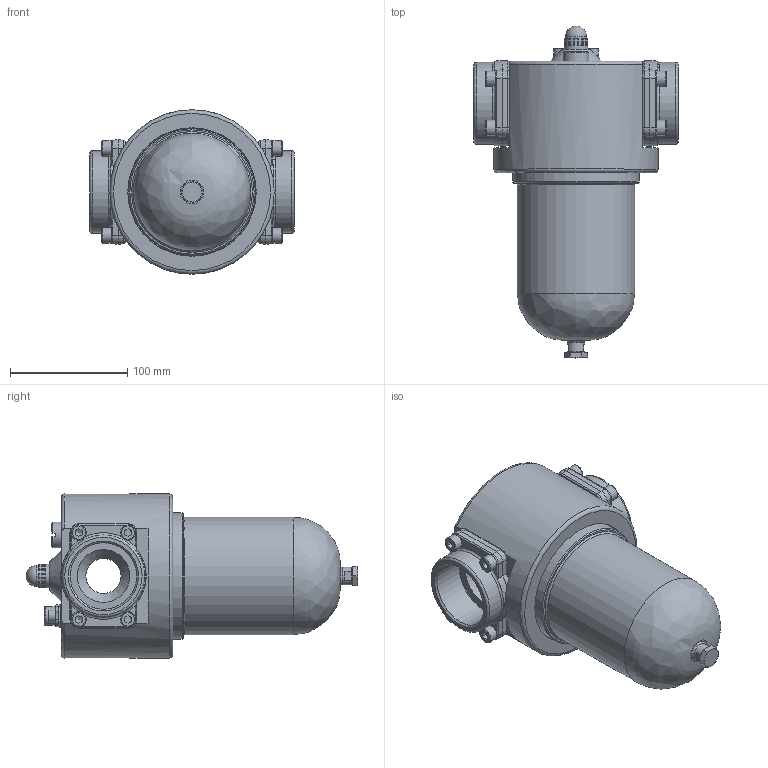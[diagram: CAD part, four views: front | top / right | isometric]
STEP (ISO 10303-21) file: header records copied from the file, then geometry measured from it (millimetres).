
FILE_DESCRIPTION(/* description */ ('LUBRIFICATORE SERIE 20'),/* implementation_level */ '2;1');
FILE_NAME(/* name */ 'B-LD-16_01.step',/* time_stamp */ '2025-08-28T15:12:17+02:00',/* author */ (''),/* organization */ (''),/* preprocessor_version */ 'ST-DEVELOPER v20.1',/* originating_system */ 'Autodesk Translation Framework v14.10.0.0',/* authorisation */ '');
FILE_SCHEMA (('AUTOMOTIVE_DESIGN { 1 0 10303 214 3 1 1 }'));
Length unit declared in the file: millimetre
Products named in the file (21): C87008; 0DC10513_16; 0DC10513_17; 0DC10513_18; 0DC10513_19; P37163_3; P37163_4; P34029; P20706; C25019_2; C25019_3; P35028_1; P50041_1; P38100_1; P34131; P60006; C30006; P30023; P37148; 0DC10513_20; 0DC10408
Assembly tree (24 placements, depth 3):
  C87008
    0DC10513_20  x4
    0DC10513_16
    0DC10513_17
    0DC10513_18
    0DC10513_19
    P37163_3
    P37163_4
    P34029
    P20706
    C25019_2
      C25019_3
      P35028_1
      P50041_1
      P38100_1
    P34131
    P60006
    C30006
      P30023
    0DC10408  x2
    P37148
Bounding box: 174 x 283 x 140 mm (x, y, z)
Volume: 1138946.7 mm3; surface area: 283056.2 mm2
Topology: 23 solids, 23 shells, 643 faces, 1549 edges, 975 vertices
Faces by surface type: plane 236, cylinder 183, cone 101, torus 79, bspline 26, sphere 18
Full cylindrical faces by diameter (mm): 2 x3, 2.6 x1, 4.917 x2, 5.917 x1, 6 x3, 6.5 x2, 6.647 x8, 8 x9, 8.5 x8, 8.566 x1, 10 x3, 10.2 x1, 11.188 x1, 12 x1, 12.376 x1, 13 x9, 14 x2, 14.4 x1, 15 x2, 15.1 x1, 16 x2, 18 x3, 18.5 x1, 20 x3, 22 x1, 24 x2, 30 x1, 45 x2, 56.656 x2, 61.5 x2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
Entity records: 18992 total; most frequent: CARTESIAN_POINT 4518, DIRECTION 3077, ORIENTED_EDGE 2772, EDGE_CURVE 1386, AXIS2_PLACEMENT_3D 1277, VERTEX_POINT 879, EDGE_LOOP 673, CIRCLE 655
